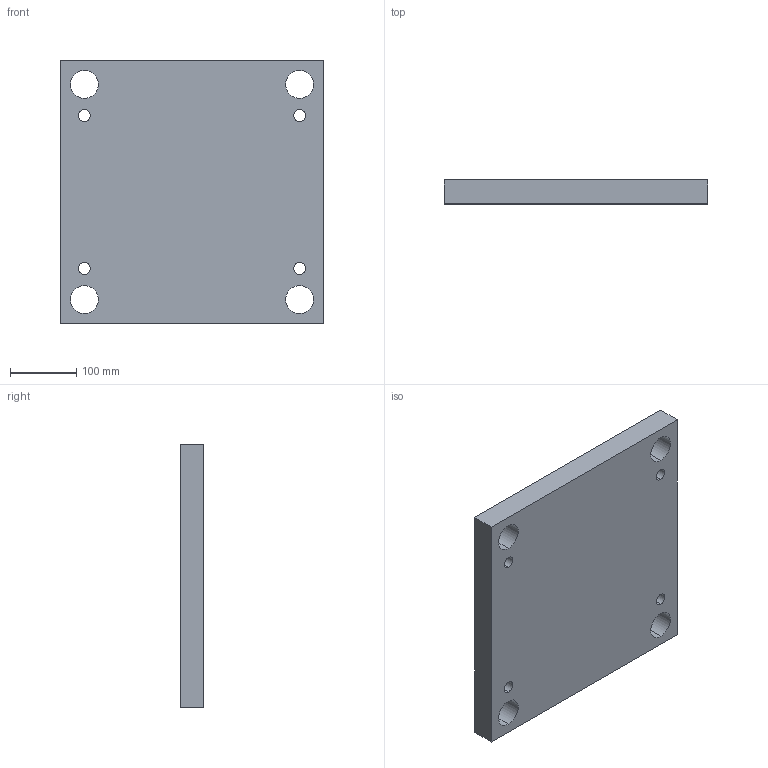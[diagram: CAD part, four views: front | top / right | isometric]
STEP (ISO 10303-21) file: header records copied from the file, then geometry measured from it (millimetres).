
FILE_DESCRIPTION (( 'STEP AP214' ), '1' );
FILE_NAME ('L45_396x396x036.STEP', '2018-10-05T18:39:47', ( '' ), ( '' ), 'SwSTEP 2.0', 'SolidWorks 2014', '' );
FILE_SCHEMA (( 'AUTOMOTIVE_DESIGN' ));
Length unit declared in the file: millimetre
Products named in the file (1): L45_396x396x036
Bounding box: 396 x 36 x 396 mm (x, y, z)
Volume: 5409228.8 mm3; surface area: 384680.1 mm2
Topology: 1 solids, 1 shells, 22 faces, 60 edges, 40 vertices
Faces by surface type: cylinder 16, plane 6
Entity records: 782 total; most frequent: DIRECTION 138, CARTESIAN_POINT 123, ORIENTED_EDGE 120, EDGE_CURVE 60, AXIS2_PLACEMENT_3D 55, VERTEX_POINT 40, EDGE_LOOP 38, CIRCLE 32
